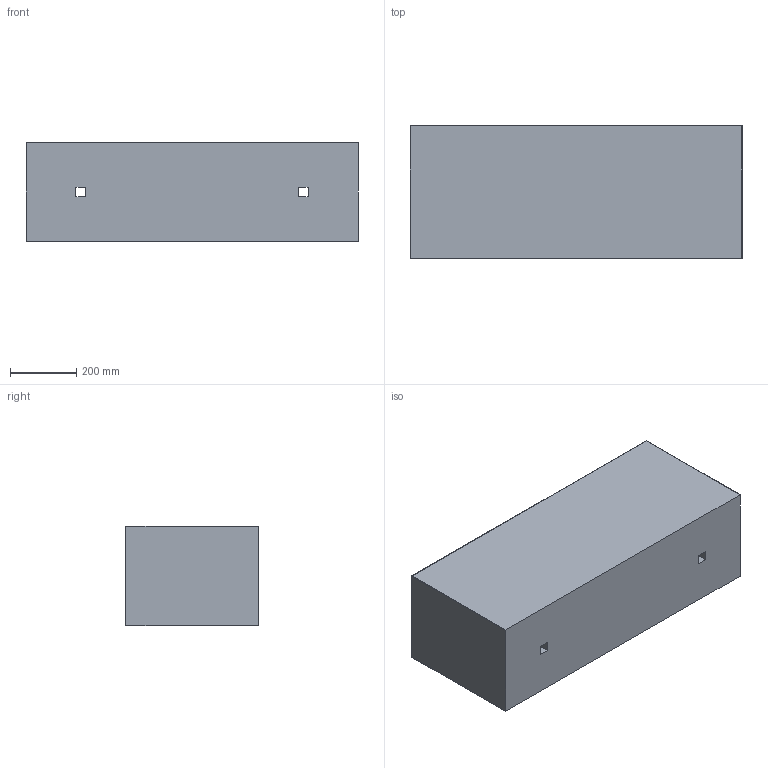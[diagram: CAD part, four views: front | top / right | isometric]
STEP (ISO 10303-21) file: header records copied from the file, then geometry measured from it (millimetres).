
FILE_DESCRIPTION(/* description */ (''),/* implementation_level */ '2;1');
FILE_NAME(/* name */ 'C:\Mac\Home\Desktop\btnv\inventor\basso1003040\donica betonowa Basso 100x30x40cm.stp',/* time_stamp */ '2025-11-10T21:27:55+01:00',/* author */ ('dwasik'),/* organization */ (''),/* preprocessor_version */ 'ST-DEVELOPER v15.6',/* originating_system */ 'Autodesk Inventor 2015',/* authorisation */ '');
FILE_SCHEMA (('AUTOMOTIVE_DESIGN { 1 0 10303 214 3 1 1 }'));
Length unit declared in the file: millimetre
Products named in the file (1): Part1
Bounding box: 1000 x 400 x 300 mm (x, y, z)
Volume: 36473099.3 mm3; surface area: 2514995.9 mm2
Topology: 1 solids, 1 shells, 31 faces, 72 edges, 44 vertices
Faces by surface type: plane 19, cylinder 8, sphere 4
Entity records: 898 total; most frequent: DIRECTION 152, CARTESIAN_POINT 148, ORIENTED_EDGE 144, EDGE_CURVE 72, LINE 56, VECTOR 56, AXIS2_PLACEMENT_3D 48, VERTEX_POINT 44
